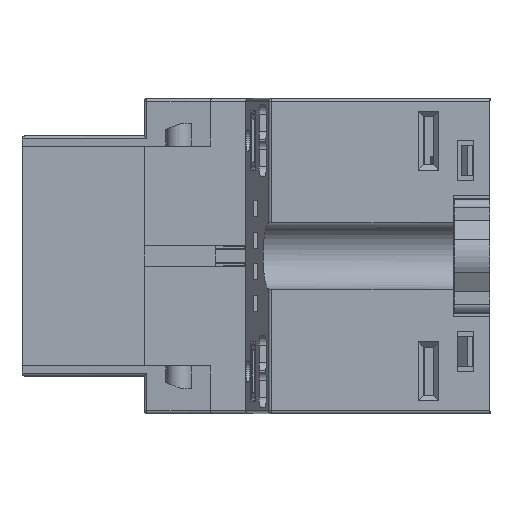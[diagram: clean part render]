
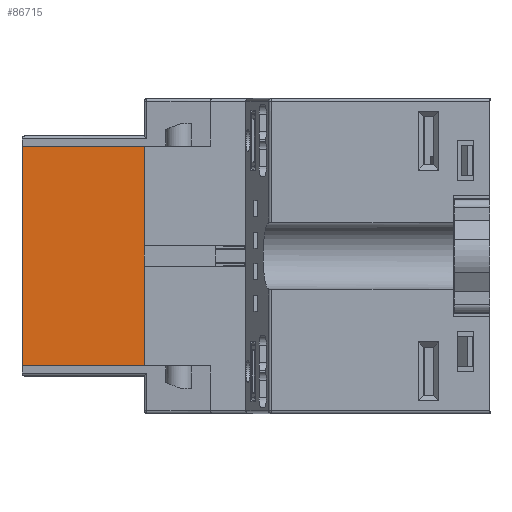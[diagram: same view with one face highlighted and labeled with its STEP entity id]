
A CAD part, left-side view. The second image highlights one B-rep face of the part: STEP entity #86715.
In plain terms, the highlighted planar face has unit normal (-1, 0, 0).
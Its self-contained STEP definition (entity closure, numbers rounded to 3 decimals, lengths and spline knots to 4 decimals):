
#5455=PLANE('',#92648);
#9695=FACE_OUTER_BOUND('',#14171,.T.);
#14171=EDGE_LOOP('',(#76963,#76964,#76965,#76966));
#24267=LINE('',#140065,#34158);
#24286=LINE('',#140087,#34177);
#24288=LINE('',#140090,#34179);
#24289=LINE('',#140092,#34180);
#34158=VECTOR('',#114210,2.16);
#34177=VECTOR('',#114231,2.16);
#34179=VECTOR('',#114235,1.2);
#34180=VECTOR('',#114238,1.2);
#41829=VERTEX_POINT('',#140062);
#41830=VERTEX_POINT('',#140064);
#41831=VERTEX_POINT('',#140084);
#41832=VERTEX_POINT('',#140086);
#53638=EDGE_CURVE('',#41829,#41830,#24267,.T.);
#53657=EDGE_CURVE('',#41831,#41832,#24286,.T.);
#53659=EDGE_CURVE('',#41830,#41831,#24288,.T.);
#53660=EDGE_CURVE('',#41829,#41832,#24289,.T.);
#76963=ORIENTED_EDGE('',*,*,#53638,.F.);
#76964=ORIENTED_EDGE('',*,*,#53660,.T.);
#76965=ORIENTED_EDGE('',*,*,#53657,.F.);
#76966=ORIENTED_EDGE('',*,*,#53659,.F.);
#86715=ADVANCED_FACE('',(#9695),#5455,.T.);
#92648=AXIS2_PLACEMENT_3D('',#140093,#114239,#114240);
#114210=DIRECTION('',(0.,0.,-1.));
#114231=DIRECTION('',(0.,0.,1.));
#114235=DIRECTION('',(0.,1.,0.));
#114238=DIRECTION('',(0.,1.,0.));
#114239=DIRECTION('center_axis',(-1.,0.,0.));
#114240=DIRECTION('ref_axis',(0.,0.,1.));
#140062=CARTESIAN_POINT('',(5.7075,3.4,1.08));
#140064=CARTESIAN_POINT('',(5.7075,3.4,-1.08));
#140065=CARTESIAN_POINT('',(5.7075,3.4,-0.54));
#140084=CARTESIAN_POINT('',(5.7075,4.6,-1.08));
#140086=CARTESIAN_POINT('',(5.7075,4.6,1.08));
#140087=CARTESIAN_POINT('',(5.7075,4.6,1.08));
#140090=CARTESIAN_POINT('',(5.7075,3.4,-1.08));
#140092=CARTESIAN_POINT('',(5.7075,3.4,1.08));
#140093=CARTESIAN_POINT('Origin',(5.7075,3.4,-1.08));
